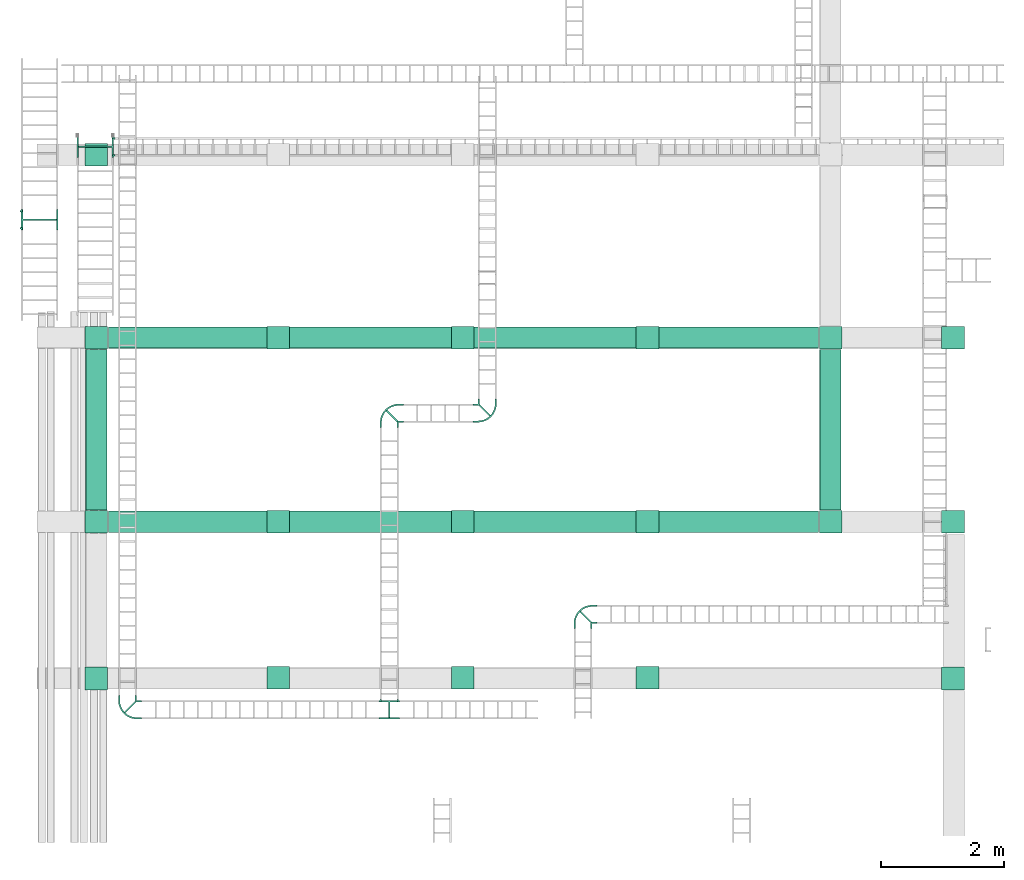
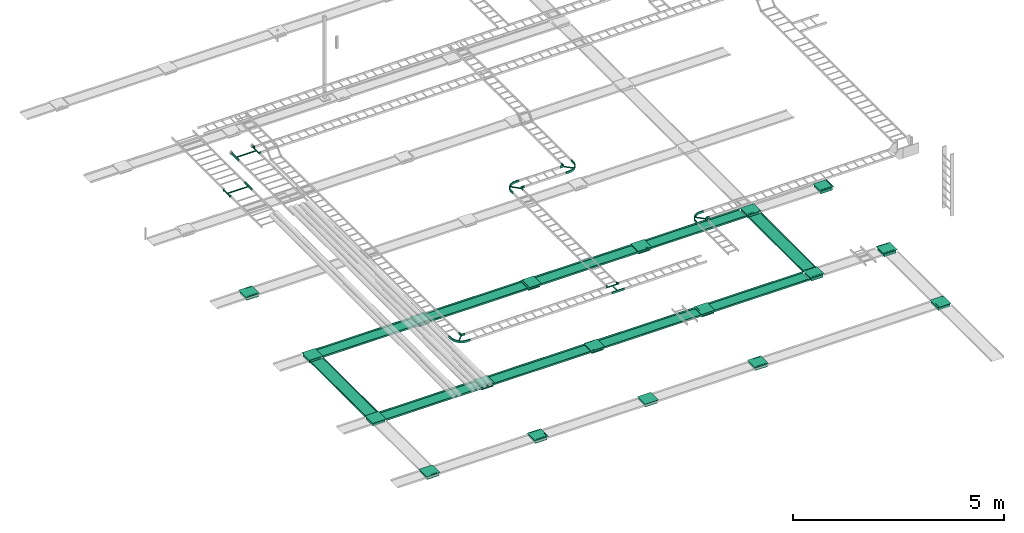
# One storey, part 1 of 16: 18 flow terminals, 7 flow fittings, 4 flow segments.
"""IFC2X3 building model written with IfcOpenShell, lengths in millimetres."""

from ifc_helpers import new_model, entity, si_unit, converted_unit, derived_unit, direction, frame, origin_with_axes, place, context, subcontext, project, spatial, open_shell, surface_model, source, transform, mapped, type_object, element, save


model = new_model("IFC2X3")

# Units and contexts
model_context = context("Model", 3, precision=0.01, world=frame((0.0, 4.29681676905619e-09, 0.0)), true_north=direction((4.01073788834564e-13, 1.0)))
plan_context = context("Plan", 3, precision=0.01, world=frame((0.0, 4.29681676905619e-09, 0.0)), true_north=direction((4.01073788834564e-13, 1.0)))
body_context = subcontext(model_context, "Body", "Model", "MODEL_VIEW")
ifc_project = project(units=[converted_unit("PLANEANGLEUNIT", "DEGREE", entity("IfcPositiveLengthMeasure", 0.0174532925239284), si_unit("PLANEANGLEUNIT", "RADIAN"), dimensions=[0, 0, 0, 0, 0, 0, 0]), si_unit("AREAUNIT", "SQUARE_METRE"), si_unit("LENGTHUNIT", "METRE", prefix="MILLI"), si_unit("MASSUNIT", "GRAM", prefix="KILO"), si_unit("POWERUNIT", "WATT"), si_unit("PRESSUREUNIT", "PASCAL"), si_unit("FORCEUNIT", "NEWTON", prefix="KILO"), si_unit("ELECTRICVOLTAGEUNIT", "VOLT"), si_unit("ELECTRICCURRENTUNIT", "AMPERE"), si_unit("THERMODYNAMICTEMPERATUREUNIT", "DEGREE_CELSIUS"), si_unit("TIMEUNIT", "SECOND"), si_unit("VOLUMEUNIT", "CUBIC_METRE"), derived_unit("LINEARVELOCITYUNIT", [(si_unit("LENGTHUNIT", "METRE"), 1), (si_unit("TIMEUNIT", "SECOND"), -1)]), derived_unit("VOLUMETRICFLOWRATEUNIT", [(si_unit("VOLUMEUNIT", "CUBIC_METRE"), 1), (si_unit("TIMEUNIT", "SECOND"), -1)]), derived_unit("THERMALTRANSMITTANCEUNIT", [(si_unit("POWERUNIT", "WATT"), 1), (si_unit("THERMODYNAMICTEMPERATUREUNIT", "KELVIN"), -1), (si_unit("AREAUNIT", "SQUARE_METRE"), -1)]), derived_unit("SOUNDPRESSUREUNIT", [(si_unit("PRESSUREUNIT", "PASCAL"), 1)])], contexts=[model_context, plan_context])

# Site, building, storey
site_placement = place(None, frame((0.0, -4.29681676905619e-09, 0.0), z_axis=(0.0, 0.0, 1.0), x_axis=(1.0, 0.0, 0.0)))
site = spatial("IfcSite", under=ifc_project, at=site_placement, Name="ENGM", CompositionType="ELEMENT")
building_placement = place(site_placement, frame((0.0, 4.29681676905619e-09, 0.0), z_axis=(0.0, 0.0, 1.0), x_axis=(1.0, 0.0, 0.0)))
building = spatial("IfcBuilding", under=site, at=building_placement, Name="TS", CompositionType="ELEMENT")
storey_placement = place(building_placement, frame((0.0, 0.0, 210900.0), z_axis=(0.0, 0.0, 1.0), x_axis=(1.0, 0.0, 0.0)))
storey = spatial("IfcBuildingStorey", under=building, at=storey_placement, Name="Nivå F", CompositionType="ELEMENT", Elevation=210900.0)

# Flow fittings
cable_carrier_fitting_type_1 = type_object("IfcCableCarrierFittingType", Name="10mm Radius", PredefinedType="TEE")
shared_shape_1 = source(origin_with_axes(), body_context, "Body", "SurfaceModel", [
    surface_model("IfcShellBasedSurfaceModel", [(12.7, -124.6, -4.6), (12.7, 124.6, -4.6), (-12.7, 124.6, -4.6), (-12.7, -124.6, -4.6), (-12.7, -124.6, -30.0), (-12.7, 124.6, -30.0), (12.7, 124.6, -30.0), (12.7, -124.6, -30.0), (-160.0, -124.6, 30.0), (-170.0, -124.6, 30.0), (-160.0, -150.0, 30.0), (-170.0, -150.0, 30.0), (-157.41181, -150.34074, 30.0), (-155.0, -151.33974, 30.0), (-142.3, -129.3427, 30.0), (-150.8378, -125.80623, 30.0), (-129.3427, -142.3, 30.0), (-134.96842, -134.96842, 30.0), (-152.92893, -152.92893, 30.0), (-151.33974, -155.0, 30.0), (-150.34074, -157.41181, 30.0), (-125.80623, -150.8378, 30.0), (-124.6, -160.0, 30.0), (-150.0, -160.0, 30.0), (-150.0, -170.0, 30.0), (-124.6, -170.0, 30.0), (155.0, -151.33974, 30.0), (157.41181, -150.34074, 30.0), (150.8378, -125.80623, 30.0), (142.3, -129.3427, 30.0), (134.96842, -134.96842, 30.0), (152.92893, -152.92893, 30.0), (170.0, -124.6, 30.0), (160.0, -124.6, 30.0), (160.0, -150.0, 30.0), (170.0, -150.0, 30.0), (129.3427, -142.3, 30.0), (150.34074, -157.41181, 30.0), (125.80623, -150.8378, 30.0), (124.6, -160.0, 30.0), (150.0, -160.0, 30.0), (124.6, -170.0, 30.0), (150.0, -170.0, 30.0), (151.33974, -155.0, 30.0), (170.0, 150.0, 30.0), (-170.0, 150.0, 30.0), (-170.0, 124.6, 30.0), (170.0, 124.6, 30.0), (-150.0, -170.0, -30.0), (-150.0, -160.0, -30.0), (-124.6, -170.0, -30.0), (-124.6, -160.0, -30.0), (-124.96526, -154.92777, -30.0), (-150.34074, -157.41181, -30.0), (-126.04179, -150.0, -30.0), (-151.33974, -155.0, -30.0), (150.0, -170.0, -30.0), (124.6, -170.0, -30.0), (150.0, -160.0, -30.0), (124.6, -160.0, -30.0), (124.96526, -154.92777, -30.0), (150.34074, -157.41181, -30.0), (126.04179, -150.0, -30.0), (151.33974, -155.0, -30.0), (-155.0, -151.33974, -30.0), (-157.41181, -150.34074, -30.0), (-170.0, -124.6, -30.0), (-152.92893, -152.92893, -30.0), (-170.0, -150.0, -30.0), (-160.0, -150.0, -30.0), (170.0, -124.6, -30.0), (155.0, -151.33974, -30.0), (152.92893, -152.92893, -30.0), (157.41181, -150.34074, -30.0), (160.0, -150.0, -30.0), (170.0, -150.0, -30.0), (170.0, 124.6, -30.0), (-170.0, 124.6, -30.0), (-170.0, 150.0, -30.0), (170.0, 150.0, -30.0), (-126.04179, -150.0, -4.6), (-129.69673, -141.70049, -4.6), (-135.34038, -134.60191, -4.6), (-142.60233, -129.17012, -4.6), (-151.00604, -125.76159, -4.6), (-160.0, -124.6, -4.6), (160.0, -124.6, -4.6), (-160.0, -150.0, -4.6), (160.0, -150.0, -4.6), (151.00604, -125.76159, -4.6), (142.60233, -129.17012, -4.6), (135.34038, -134.60191, -4.6), (129.69673, -141.70049, -4.6), (126.04179, -150.0, -4.6)], [open_shell([[[0, 1, 2]], [[2, 3, 0]], [[4, 5, 6]], [[6, 7, 4]], [[2, 1, 5]], [[6, 5, 1]], [[3, 2, 5]], [[5, 4, 3]], [[0, 3, 7]], [[4, 7, 3]], [[1, 0, 7]], [[7, 6, 1]], [[8, 9, 10]], [[11, 10, 9]], [[8, 10, 12]], [[13, 14, 15]], [[16, 17, 18]], [[14, 18, 17]], [[15, 12, 13]], [[15, 8, 12]], [[19, 16, 18]], [[19, 20, 21]], [[19, 21, 16]], [[21, 20, 22]], [[23, 24, 25]], [[23, 25, 22]], [[20, 23, 22]], [[18, 14, 13]], [[26, 27, 28]], [[26, 28, 29]], [[29, 30, 31]], [[32, 33, 34]], [[27, 34, 33]], [[34, 35, 32]], [[33, 28, 27]], [[30, 36, 31]], [[37, 38, 39]], [[40, 41, 42]], [[41, 40, 39]], [[37, 39, 40]], [[26, 29, 31]], [[37, 43, 38]], [[36, 43, 31]], [[36, 38, 43]], [[44, 45, 46]], [[46, 47, 44]], [[48, 49, 50]], [[50, 49, 51]], [[52, 53, 54]], [[51, 49, 52]], [[53, 55, 54]], [[52, 49, 53]], [[56, 57, 58]], [[58, 57, 59]], [[60, 61, 58]], [[62, 63, 61]], [[61, 60, 62]], [[60, 58, 59]], [[64, 65, 66]], [[67, 64, 54]], [[68, 66, 69]], [[66, 65, 69]], [[64, 66, 54]], [[66, 70, 54]], [[71, 72, 62]], [[73, 71, 70]], [[73, 70, 74]], [[70, 71, 62]], [[70, 75, 74]], [[62, 54, 70]], [[63, 62, 72]], [[55, 67, 54]], [[76, 77, 78]], [[78, 79, 76]], [[24, 23, 48]], [[49, 48, 23]], [[25, 24, 48]], [[48, 50, 25]], [[22, 25, 51]], [[50, 51, 25]], [[22, 51, 52]], [[54, 80, 52]], [[22, 52, 80]], [[22, 80, 21]], [[16, 81, 17]], [[16, 21, 80]], [[81, 16, 80]], [[82, 83, 14]], [[84, 85, 8]], [[83, 84, 15]], [[17, 82, 14]], [[14, 83, 15]], [[84, 8, 15]], [[82, 17, 81]], [[33, 32, 86]], [[9, 8, 85]], [[86, 70, 66]], [[70, 86, 32]], [[85, 66, 9]], [[66, 85, 86]], [[11, 9, 66]], [[66, 68, 11]], [[10, 11, 87]], [[87, 68, 69]], [[68, 87, 11]], [[12, 10, 87]], [[13, 12, 87]], [[65, 87, 69]], [[87, 65, 64]], [[67, 87, 64]], [[18, 13, 87]], [[19, 18, 67]], [[55, 20, 19]], [[20, 53, 23]], [[55, 19, 67]], [[20, 55, 53]], [[23, 53, 49]], [[87, 67, 18]], [[37, 40, 61]], [[43, 37, 63]], [[61, 40, 58]], [[37, 61, 63]], [[43, 63, 72]], [[72, 31, 43]], [[26, 31, 88]], [[88, 27, 26]], [[27, 88, 34]], [[88, 71, 73]], [[73, 74, 88]], [[71, 88, 72]], [[31, 72, 88]], [[35, 34, 88]], [[88, 74, 75]], [[88, 75, 35]], [[32, 35, 75]], [[75, 70, 32]], [[33, 86, 89]], [[28, 89, 90]], [[29, 90, 91]], [[33, 89, 28]], [[28, 90, 29]], [[91, 30, 29]], [[91, 92, 30]], [[93, 62, 60]], [[93, 60, 39]], [[39, 60, 59]], [[92, 36, 30]], [[92, 93, 36]], [[36, 93, 38]], [[93, 39, 38]], [[41, 39, 57]], [[59, 57, 39]], [[42, 41, 56]], [[57, 56, 41]], [[40, 42, 58]], [[56, 58, 42]], [[45, 44, 79]], [[79, 78, 45]], [[46, 45, 77]], [[78, 77, 45]], [[47, 46, 77]], [[77, 76, 47]], [[44, 47, 79]], [[76, 79, 47]], [[89, 86, 84]], [[90, 89, 84]], [[92, 91, 82]], [[93, 92, 81]], [[90, 83, 91]], [[84, 83, 90]], [[85, 84, 86]], [[81, 80, 93]], [[82, 81, 92]], [[83, 82, 91]], [[93, 80, 54]], [[54, 62, 93]]])]),
])
flow_fitting_placement = place(storey_placement, frame((526292.55901, 442941.94453, 3925.0), z_axis=(0.0, 0.0, 1.0), x_axis=(-1.0, 0.0, 0.0)))
element("IfcFlowFitting", 1, at=flow_fitting_placement, inside=storey, type_object=cable_carrier_fitting_type_1, Name="10mm Radius", context=body_context, shape_type="MappedRepresentation", body=[
    mapped(shared_shape_1, transform((0.0, 0.0, 0.0), scale=1.0)),
])
shared_shape_2 = source(origin_with_axes(), body_context, "Body", "SurfaceModel", [
    surface_model("IfcShellBasedSurfaceModel", [(12.7, -274.60001, -4.6), (12.7, 274.60001, -4.6), (-12.7, 274.60001, -4.6), (-12.7, -274.60001, -4.6), (-12.7, -274.60001, -30.0), (-12.7, 274.60001, -30.0), (12.7, 274.60001, -30.0), (12.7, -274.60001, -30.0), (-160.0, -274.60001, 30.0), (-170.0, -274.60001, 30.0), (-160.0, -300.0, 30.0), (-170.0, -300.0, 30.0), (-157.41181, -300.34073, 30.0), (-155.0, -301.33975, 30.0), (-142.3, -279.34271, 30.0), (-150.8378, -275.80622, 30.0), (-129.3427, -292.3, 30.0), (-134.96842, -284.96842, 30.0), (-152.92893, -302.92893, 30.0), (-151.33974, -304.99999, 30.0), (-150.34074, -307.4118, 30.0), (-125.80623, -300.83781, 30.0), (-124.6, -310.0, 30.0), (-150.0, -310.0, 30.0), (-150.0, -320.00002, 30.0), (-124.6, -320.00002, 30.0), (155.0, -301.33975, 30.0), (157.41181, -300.34073, 30.0), (150.8378, -275.80622, 30.0), (142.3, -279.34271, 30.0), (134.96842, -284.96842, 30.0), (170.0, -274.60001, 30.0), (160.0, -274.60001, 30.0), (160.0, -300.0, 30.0), (170.0, -300.0, 30.0), (129.3427, -292.3, 30.0), (152.92893, -302.92893, 30.0), (150.34074, -307.4118, 30.0), (125.80623, -300.83781, 30.0), (124.6, -310.0, 30.0), (150.0, -310.0, 30.0), (124.6, -320.00002, 30.0), (150.0, -320.00002, 30.0), (151.33974, -304.99999, 30.0), (170.0, 300.0, 30.0), (-170.0, 300.0, 30.0), (170.0, 274.60001, 30.0), (-170.0, 274.60001, 30.0), (-150.0, -320.00002, -30.0), (-150.0, -310.0, -30.0), (-124.6, -320.00002, -30.0), (-124.6, -310.0, -30.0), (-124.96526, -304.92779, -30.0), (-150.34074, -307.4118, -30.0), (-126.04179, -300.0, -30.0), (-151.33974, -304.99999, -30.0), (150.0, -320.00002, -30.0), (124.6, -320.00002, -30.0), (150.0, -310.0, -30.0), (124.6, -310.0, -30.0), (124.96526, -304.92779, -30.0), (150.34074, -307.4118, -30.0), (126.04179, -300.0, -30.0), (151.33974, -304.99999, -30.0), (-155.0, -301.33975, -30.0), (-157.41181, -300.34073, -30.0), (-170.0, -274.60001, -30.0), (-152.92893, -302.92893, -30.0), (-170.0, -300.0, -30.0), (-160.0, -300.0, -30.0), (155.0, -301.33975, -30.0), (152.92893, -302.92893, -30.0), (157.41181, -300.34073, -30.0), (170.0, -274.60001, -30.0), (160.0, -300.0, -30.0), (170.0, -300.0, -30.0), (170.0, 274.60001, -30.0), (-170.0, 274.60001, -30.0), (170.0, 300.0, -30.0), (-170.0, 300.0, -30.0), (-126.04179, -300.0, -4.6), (-129.69673, -291.70049, -4.6), (-135.34038, -284.60191, -4.6), (-142.60233, -279.17011, -4.6), (-151.00604, -275.76158, -4.6), (-160.0, -274.60001, -4.6), (160.0, -274.60001, -4.6), (-160.0, -300.0, -4.6), (160.0, -300.0, -4.6), (151.00604, -275.76158, -4.6), (142.60233, -279.17011, -4.6), (135.34038, -284.60191, -4.6), (129.69673, -291.70049, -4.6), (126.04179, -300.0, -4.6)], [open_shell([[[0, 1, 2]], [[2, 3, 0]], [[4, 5, 6]], [[6, 7, 4]], [[2, 1, 5]], [[6, 5, 1]], [[3, 2, 5]], [[5, 4, 3]], [[0, 3, 7]], [[4, 7, 3]], [[1, 0, 7]], [[7, 6, 1]], [[8, 9, 10]], [[11, 10, 9]], [[8, 10, 12]], [[13, 14, 15]], [[16, 17, 18]], [[14, 13, 17]], [[15, 12, 13]], [[15, 8, 12]], [[19, 16, 18]], [[19, 20, 21]], [[19, 21, 16]], [[21, 20, 22]], [[23, 24, 25]], [[23, 25, 22]], [[20, 23, 22]], [[18, 17, 13]], [[26, 27, 28]], [[29, 26, 28]], [[30, 26, 29]], [[31, 32, 33]], [[27, 33, 32]], [[33, 34, 31]], [[32, 28, 27]], [[30, 35, 36]], [[37, 38, 39]], [[40, 41, 42]], [[41, 40, 39]], [[37, 39, 40]], [[26, 30, 36]], [[37, 43, 38]], [[35, 43, 36]], [[35, 38, 43]], [[44, 45, 46]], [[47, 46, 45]], [[48, 49, 50]], [[50, 49, 51]], [[52, 53, 54]], [[51, 49, 52]], [[53, 55, 54]], [[52, 49, 53]], [[56, 57, 58]], [[58, 57, 59]], [[60, 61, 58]], [[62, 63, 61]], [[61, 60, 62]], [[60, 58, 59]], [[64, 65, 66]], [[67, 64, 54]], [[68, 66, 69]], [[65, 69, 66]], [[64, 66, 54]], [[66, 62, 54]], [[70, 71, 62]], [[72, 70, 73]], [[72, 73, 74]], [[73, 75, 74]], [[62, 66, 73]], [[70, 62, 73]], [[63, 62, 71]], [[55, 67, 54]], [[76, 77, 78]], [[79, 78, 77]], [[24, 23, 49]], [[49, 48, 24]], [[25, 24, 48]], [[48, 50, 25]], [[22, 25, 51]], [[50, 51, 25]], [[22, 51, 52]], [[54, 80, 52]], [[22, 52, 80]], [[22, 80, 21]], [[16, 81, 17]], [[16, 21, 80]], [[81, 16, 80]], [[82, 83, 14]], [[84, 85, 8]], [[83, 84, 15]], [[17, 82, 14]], [[14, 83, 15]], [[84, 8, 15]], [[82, 17, 81]], [[32, 31, 86]], [[9, 8, 85]], [[86, 73, 66]], [[73, 86, 31]], [[85, 66, 9]], [[66, 85, 86]], [[11, 9, 68]], [[66, 68, 9]], [[10, 11, 87]], [[87, 68, 69]], [[68, 87, 11]], [[12, 10, 87]], [[13, 12, 87]], [[65, 87, 69]], [[87, 65, 64]], [[67, 87, 64]], [[18, 13, 87]], [[19, 18, 67]], [[55, 20, 19]], [[20, 53, 23]], [[55, 19, 67]], [[20, 55, 53]], [[23, 53, 49]], [[87, 67, 18]], [[37, 40, 61]], [[43, 37, 63]], [[61, 40, 58]], [[37, 61, 63]], [[43, 63, 71]], [[71, 36, 43]], [[26, 36, 88]], [[88, 27, 26]], [[27, 88, 33]], [[88, 70, 72]], [[72, 74, 88]], [[70, 88, 71]], [[36, 71, 88]], [[34, 33, 88]], [[88, 74, 75]], [[88, 75, 34]], [[31, 34, 73]], [[75, 73, 34]], [[32, 86, 89]], [[28, 89, 90]], [[29, 90, 91]], [[32, 89, 28]], [[28, 90, 29]], [[91, 30, 29]], [[91, 92, 30]], [[93, 62, 60]], [[93, 60, 39]], [[39, 60, 59]], [[92, 35, 30]], [[92, 93, 35]], [[35, 93, 38]], [[93, 39, 38]], [[41, 39, 59]], [[59, 57, 41]], [[42, 41, 56]], [[57, 56, 41]], [[40, 42, 56]], [[56, 58, 40]], [[45, 44, 78]], [[78, 79, 45]], [[47, 45, 79]], [[79, 77, 47]], [[46, 47, 77]], [[77, 76, 46]], [[44, 46, 76]], [[76, 78, 44]], [[89, 86, 84]], [[90, 89, 84]], [[92, 91, 82]], [[93, 92, 81]], [[90, 83, 91]], [[84, 83, 90]], [[85, 84, 86]], [[81, 80, 93]], [[82, 81, 92]], [[83, 82, 91]], [[93, 80, 62]], [[54, 62, 80]]])]),
])
for number, where, z_axis, x_axis, name in (
    (2, (521496.73076, 452124.42016, 3925.0), (0.0, 0.0, 1.0), (0.0, 1.0, 0.0), "10mm Radius"),
    (3, (520589.0125, 450936.9625, 3925.0), (0.0, 0.0, 1.0), (0.0, -1.0, 0.0), "10mm Radius"),
):
    element("IfcFlowFitting", number, at=place(storey_placement, frame(where, z_axis=z_axis, x_axis=x_axis)), inside=storey, type_object=cable_carrier_fitting_type_1, Name=name, context=body_context, shape_type="MappedRepresentation", body=[
        mapped(shared_shape_2, transform((0.0, 0.0, 0.0), scale=1.0)),
    ])
cable_carrier_fitting_type_2 = type_object("IfcCableCarrierFittingType", Name="Standard", PredefinedType="BEND")
shared_shape_3 = source(origin_with_axes(), body_context, "Body", "SurfaceModel", [
    surface_model("IfcShellBasedSurfaceModel", [(-123.35213, 141.31264, -4.6), (-123.35213, 141.31264, -30.0), (-141.31264, 123.35213, -30.0), (-141.31264, 123.35213, -4.6), (34.89837, -52.85888, -30.0), (52.85888, -34.89837, -30.0), (34.89837, -52.85888, -4.6), (52.85888, -34.89837, -4.6), (-231.0, -150.0, 30.0), (-231.0, -124.6, -30.0), (-231.0, -150.0, -30.0), (-231.0, -124.6, 30.0), (-231.0, 150.0, 30.0), (-231.0, 150.0, -30.0), (-231.0, 124.6, -30.0), (-231.0, 124.6, 30.0), (-151.0, -124.6, 30.0), (-151.0, -124.6, -30.0), (-35.81229, -127.08774, -30.0), (-97.23311, -119.30443, -30.0), (-45.53245, -103.6212, -30.0), (16.22664, -99.27236, -30.0), (2.11516, -78.15302, -30.0), (61.83914, -61.83914, -30.0), (43.87863, -43.87863, -30.0), (-151.0, -150.0, -30.0), (-92.27782, -144.21637, -30.0), (144.21637, 92.27782, -30.0), (119.30443, 97.23311, -30.0), (124.6, 151.0, -30.0), (124.6, 231.0, -30.0), (150.0, 231.0, -30.0), (150.0, 151.0, -30.0), (78.15302, -2.11516, -30.0), (99.27236, -16.22664, -30.0), (103.6212, 45.53245, -30.0), (127.08774, 35.81229, -30.0), (-151.0, -150.0, 30.0), (-92.27782, -144.21637, 30.0), (-97.23311, -119.30443, 30.0), (-35.81229, -127.08774, 30.0), (-45.53245, -103.6212, 30.0), (43.87863, -43.87863, 30.0), (2.11516, -78.15302, 30.0), (61.83914, -61.83914, 30.0), (16.22664, -99.27236, 30.0), (78.15302, -2.11516, 30.0), (99.27236, -16.22664, 30.0), (127.08774, 35.81229, 30.0), (103.6212, 45.53245, 30.0), (119.30443, 97.23311, 30.0), (124.6, 151.0, 30.0), (144.21637, 92.27782, 30.0), (124.6, 231.0, 30.0), (150.0, 151.0, 30.0), (150.0, 231.0, 30.0), (-151.0, 150.0, -30.0), (-151.0, 150.0, 30.0), (-151.0, 124.6, -30.0), (-137.8, 128.13693, -30.0), (-150.2929, 150.2929, -30.0), (-124.6, 151.0, -30.0), (-150.0, 151.0, -30.0), (-150.0, 231.0, -30.0), (-124.6, 231.0, -30.0), (-128.13693, 137.8, -30.0), (-151.0, 124.6, 30.0), (-137.8, 128.13693, 30.0), (-150.2929, 150.2929, 30.0), (-128.13693, 137.8, 30.0), (-150.0, 151.0, 30.0), (-124.6, 151.0, 30.0), (-150.0, 231.0, 30.0), (-124.6, 231.0, 30.0), (-144.4, 126.36847, 30.0), (-144.42174, 126.36264, -30.0), (-132.96846, 132.96846, 30.0), (-126.36264, 144.42174, 30.0), (-132.96846, 132.96846, -30.0), (-126.36847, 144.4, -30.0)], [open_shell([[[0, 1, 2]], [[2, 3, 0]], [[4, 5, 6]], [[7, 6, 5]], [[1, 0, 7]], [[7, 5, 1]], [[2, 1, 5]], [[5, 4, 2]], [[3, 2, 4]], [[4, 6, 3]], [[0, 3, 7]], [[6, 7, 3]], [[8, 9, 10]], [[9, 8, 11]], [[12, 13, 14]], [[14, 15, 12]], [[9, 11, 16]], [[16, 17, 9]], [[18, 19, 20]], [[21, 22, 23]], [[23, 22, 24]], [[22, 21, 20]], [[18, 20, 21]], [[10, 9, 25]], [[25, 9, 17]], [[19, 26, 17]], [[26, 19, 18]], [[17, 26, 25]], [[27, 28, 29]], [[30, 31, 32]], [[30, 32, 29]], [[27, 29, 32]], [[23, 33, 34]], [[23, 24, 33]], [[34, 33, 35]], [[28, 36, 35]], [[36, 28, 27]], [[35, 36, 34]], [[8, 10, 25]], [[25, 37, 8]], [[11, 8, 37]], [[16, 37, 38]], [[37, 16, 11]], [[39, 38, 40]], [[39, 16, 38]], [[39, 40, 41]], [[42, 43, 44]], [[45, 43, 41]], [[44, 43, 45]], [[40, 45, 41]], [[46, 44, 47]], [[47, 48, 49]], [[49, 48, 50]], [[47, 49, 46]], [[51, 50, 52]], [[53, 51, 54]], [[54, 55, 53]], [[54, 51, 52]], [[50, 48, 52]], [[46, 42, 44]], [[13, 12, 56]], [[57, 56, 12]], [[58, 56, 59]], [[14, 13, 58]], [[58, 13, 56]], [[56, 60, 59]], [[61, 62, 63]], [[61, 63, 64]], [[65, 59, 60]], [[65, 62, 61]], [[65, 60, 62]], [[15, 14, 66]], [[58, 66, 14]], [[15, 66, 12]], [[57, 12, 66]], [[67, 68, 57]], [[57, 66, 67]], [[68, 69, 70]], [[70, 69, 71]], [[71, 72, 70]], [[72, 71, 73]], [[69, 68, 67]], [[19, 17, 39]], [[41, 20, 19]], [[20, 43, 22]], [[39, 17, 16]], [[41, 43, 20]], [[19, 39, 41]], [[24, 43, 42]], [[24, 22, 43]], [[35, 33, 46]], [[28, 35, 49]], [[29, 28, 50]], [[42, 46, 24]], [[46, 33, 24]], [[35, 46, 49]], [[49, 50, 28]], [[50, 51, 29]], [[38, 25, 26]], [[26, 18, 40]], [[21, 45, 18]], [[37, 25, 38]], [[26, 40, 38]], [[18, 45, 40]], [[23, 44, 45]], [[45, 21, 23]], [[47, 34, 36]], [[48, 36, 27]], [[52, 27, 32]], [[23, 47, 44]], [[23, 34, 47]], [[48, 47, 36]], [[27, 52, 48]], [[32, 54, 52]], [[56, 57, 68]], [[60, 56, 68]], [[70, 62, 68]], [[60, 68, 62]], [[74, 59, 67]], [[59, 74, 75]], [[66, 58, 75]], [[75, 74, 66]], [[65, 69, 76]], [[61, 71, 77]], [[59, 78, 67]], [[67, 78, 76]], [[61, 77, 79]], [[65, 79, 69]], [[78, 65, 76]], [[69, 79, 77]], [[31, 30, 55]], [[53, 55, 30]], [[64, 63, 72]], [[72, 73, 64]], [[29, 51, 30]], [[53, 30, 51]], [[54, 32, 31]], [[31, 55, 54]], [[62, 70, 63]], [[72, 63, 70]], [[71, 61, 64]], [[64, 73, 71]]])]),
])
for number, where, z_axis, x_axis, name in (
    (4, (522022.55901, 442941.94453, 3925.0), (0.0, 0.0, 1.0), (0.0, -1.0, 0.0), "Standard"),
    (5, (527892.55901, 447781.29565, 3925.0), (0.0, 0.0, 1.0), (1.0, 0.0, 0.0), "Standard"),
    (6, (526292.55901, 447781.29565, 3925.0), (0.0, 0.0, 1.0), (-1.0, 0.0, 0.0), "Standard"),
    (7, (529452.55901, 444501.94453, 3925.0), (0.0, 0.0, 1.0), (-1.0, 0.0, 0.0), "Standard"),
):
    element("IfcFlowFitting", number, at=place(storey_placement, frame(where, z_axis=z_axis, x_axis=x_axis)), inside=storey, type_object=cable_carrier_fitting_type_2, Name=name, context=body_context, shape_type="MappedRepresentation", body=[
        mapped(shared_shape_3, transform((0.0, 0.0, 0.0), scale=1.0)),
    ])

# Flow segments
cable_carrier_segment_type = type_object("IfcCableCarrierSegmentType", Name="Kabelbane", PredefinedType="CABLETRAYSEGMENT")
shared_shape_4 = source(origin_with_axes(), body_context, "Body", "SurfaceModel", [
    surface_model("IfcShellBasedSurfaceModel", [(0.0, -175.0, 25.0), (0.0, -172.46, -22.46), (0.0, -175.0, -25.0), (0.0, 175.0, -25.0), (0.0, -172.46, 25.0), (0.0, 175.0, 25.0), (0.0, 172.46, -22.46), (0.0, 172.46, 25.0), (2614.56192, -172.46, 25.0), (2614.56192, -175.0, 25.0), (2614.56192, -172.46, -22.46), (2614.56192, 175.0, 25.0), (2614.56192, 172.46, 25.0), (2614.56192, 172.46, -22.46), (2614.56192, -175.0, -25.0), (2614.56192, 175.0, -25.0)], [open_shell([[[0, 1, 2]], [[3, 2, 1]], [[1, 0, 4]], [[5, 3, 6]], [[1, 6, 3]], [[6, 7, 5]], [[8, 9, 10]], [[11, 12, 13]], [[10, 14, 15]], [[14, 10, 9]], [[13, 15, 11]], [[15, 13, 10]], [[0, 2, 14]], [[14, 9, 0]], [[4, 0, 9]], [[9, 8, 4]], [[1, 4, 8]], [[8, 10, 1]], [[6, 1, 10]], [[10, 13, 6]], [[7, 6, 13]], [[13, 12, 7]], [[5, 7, 12]], [[12, 11, 5]], [[3, 5, 11]], [[11, 15, 3]], [[2, 3, 14]], [[15, 14, 3]]])]),
])
for number, where, z_axis, x_axis in (
    (8, (533489.50798, 448819.16475, -35.0), (0.0, 0.0, 1.0), (0.0, -1.0, 0.0)),
    (9, (521514.77746, 448819.16475, -35.0), (0.0, 0.0, 1.0), (0.0, -1.0, 0.0)),
):
    element("IfcFlowSegment", number, at=place(storey_placement, frame(where, z_axis=z_axis, x_axis=x_axis)), inside=storey, type_object=cable_carrier_segment_type, Name="Kabelbane", context=body_context, shape_type="MappedRepresentation", body=[
        mapped(shared_shape_4, transform((0.0, 0.0, 0.0), scale=1.0)),
    ])
shared_shape_5 = source(origin_with_axes(), body_context, "Body", "SurfaceModel", [
    surface_model("IfcShellBasedSurfaceModel", [(0.0, -175.0, 25.0), (0.0, -172.46, -22.46), (0.0, -175.0, -25.0), (0.0, 175.0, -25.0), (0.0, -172.46, 25.0), (0.0, 175.0, 25.0), (0.0, 172.46, -22.46), (0.0, 172.46, 25.0), (11584.73009, -175.0, -25.0), (11584.73009, -172.46, -22.46), (11584.73009, -175.0, 25.0), (11584.73009, 175.0, -25.0), (11584.73009, -172.46, 25.0), (11584.73009, 172.46, -22.46), (11584.73009, 175.0, 25.0), (11584.73009, 172.46, 25.0)], [open_shell([[[0, 1, 2]], [[3, 2, 1]], [[1, 0, 4]], [[5, 3, 6]], [[1, 6, 3]], [[6, 7, 5]], [[8, 9, 10]], [[9, 8, 11]], [[12, 10, 9]], [[13, 11, 14]], [[11, 13, 9]], [[14, 15, 13]], [[0, 2, 8]], [[8, 10, 0]], [[4, 0, 10]], [[10, 12, 4]], [[1, 4, 12]], [[12, 9, 1]], [[6, 1, 13]], [[9, 13, 1]], [[7, 6, 13]], [[13, 15, 7]], [[5, 7, 15]], [[15, 14, 5]], [[3, 5, 14]], [[14, 11, 3]], [[2, 3, 11]], [[11, 8, 2]]])]),
])
for number, where, z_axis, x_axis in (
    (10, (521709.77746, 449014.16475, -35.0), (0.0, 0.0, 1.0), (1.0, 0.0, 0.0)),
    (11, (521709.77746, 446009.60271, -35.0), (0.0, 0.0, 1.0), (1.0, 0.0, 0.0)),
):
    element("IfcFlowSegment", number, at=place(storey_placement, frame(where, z_axis=z_axis, x_axis=x_axis)), inside=storey, type_object=cable_carrier_segment_type, Name="Kabelbane", context=body_context, shape_type="MappedRepresentation", body=[
        mapped(shared_shape_5, transform((0.0, 0.0, 0.0), scale=1.0)),
    ])

# Flow terminals
electric_appliance_type = type_object("IfcElectricApplianceType", Name="Gulvboks UZD370x370 H=100mm", PredefinedType="NOTDEFINED")
shared_shape_6 = source(origin_with_axes(), body_context, "Body", "SurfaceModel", [
    surface_model("IfcShellBasedSurfaceModel", [(141.49976, -141.4961, -1.48406), (141.49976, 141.50391, -1.48406), (-141.50025, -141.4961, -1.48406), (-141.50025, 141.50391, -1.48406), (-141.50025, -141.4961, -4.48406), (-141.50025, 141.50391, -4.48406), (141.49976, -141.4961, -4.48406), (141.49976, 141.50391, -4.48406), (184.99917, 184.99837, -1.48406), (155.84051, 145.91442, -1.48406), (162.49918, 142.75301, -1.48406), (149.99169, 150.40039, -1.48406), (145.21219, 156.0119, -1.48406), (141.71406, 162.5, -1.48406), (-185.00083, 184.99837, -1.48406), (162.49918, -141.17372, -1.48406), (184.99917, -185.00163, -1.48406), (155.48123, -144.5578, -1.48406), (149.38592, -149.41071, -1.48406), (144.51534, -155.49191, -1.48406), (141.11091, -162.5, -1.48406), (-148.97624, 154.87114, -1.48406), (-155.04888, 148.55289, -1.48406), (-144.66368, 162.5, -1.48406), (-162.50082, -142.36211, -1.48406), (-162.50082, 143.94139, -1.48406), (-185.00083, -185.00163, -1.48406), (-144.06053, -162.5, -1.48406), (-147.04786, -156.16856, -1.48406), (-151.23564, -150.55841, -1.48406), (-156.45626, -145.89404, -1.48406), (-185.00083, -185.00163, -4.48406), (-185.00083, 184.99837, -4.48406), (184.99917, -185.00163, -4.48406), (184.99917, 184.99837, -4.48406), (-156.45626, -145.89404, -3.48406), (-155.04888, 148.55289, -3.48406), (-162.50082, 143.94139, -3.48406), (149.99169, 150.40039, -3.48406), (-148.97624, 154.87114, -3.48406), (-151.23564, -150.55841, -3.48406), (-162.50082, -142.36211, -3.48406), (-147.04786, -156.16856, -3.48406), (144.51534, -155.49191, -3.48406), (-144.06053, -162.5, -3.48406), (141.11091, -162.5, -3.48406), (-144.66368, 162.5, -3.48406), (145.21219, 156.0119, -3.48406), (162.49918, -141.17372, -3.48406), (162.49918, 142.75301, -3.48406), (155.84051, 145.91442, -3.48406), (155.48123, -144.5578, -3.48406), (149.38592, -149.41071, -3.48406), (141.71406, 162.5, -3.48406), (162.49918, -162.5, -4.48406), (162.49918, 162.5, -4.48406), (-162.50082, 162.5, -4.48406), (-162.50082, -162.5, -4.48406), (-162.50082, -162.5, -101.48406), (-162.50082, 162.5, -101.48406), (162.49918, 162.5, -101.48406), (162.49918, -162.5, -101.48406)], [open_shell([[[0, 1, 2]], [[3, 2, 1]], [[4, 5, 6]], [[7, 6, 5]], [[3, 1, 5]], [[7, 5, 1]], [[2, 3, 4]], [[5, 4, 3]], [[0, 2, 6]], [[4, 6, 2]], [[1, 0, 7]], [[6, 7, 0]], [[8, 9, 10]], [[9, 8, 11]], [[8, 12, 11]], [[12, 8, 13]], [[8, 14, 13]], [[8, 15, 16]], [[15, 8, 10]], [[16, 15, 17]], [[18, 19, 16]], [[18, 16, 17]], [[16, 19, 20]], [[21, 14, 22]], [[14, 21, 23]], [[24, 25, 14]], [[14, 25, 22]], [[24, 14, 26]], [[23, 13, 14]], [[27, 28, 26]], [[20, 27, 26]], [[29, 30, 26]], [[26, 30, 24]], [[29, 26, 28]], [[20, 26, 16]], [[31, 32, 33]], [[34, 33, 32]], [[14, 8, 34]], [[34, 32, 14]], [[26, 14, 32]], [[32, 31, 26]], [[16, 26, 31]], [[31, 33, 16]], [[8, 16, 33]], [[33, 34, 8]], [[35, 36, 37]], [[36, 38, 39]], [[38, 36, 40]], [[37, 41, 35]], [[40, 42, 43]], [[42, 44, 45]], [[40, 36, 35]], [[46, 39, 47]], [[38, 47, 39]], [[48, 49, 50]], [[51, 50, 38]], [[40, 52, 38]], [[43, 42, 45]], [[38, 52, 51]], [[50, 51, 48]], [[43, 52, 40]], [[47, 53, 46]], [[53, 13, 23]], [[23, 46, 53]], [[37, 25, 24]], [[24, 41, 37]], [[44, 27, 20]], [[20, 45, 44]], [[48, 15, 10]], [[10, 49, 48]], [[23, 21, 46]], [[39, 46, 21]], [[21, 22, 39]], [[22, 25, 36]], [[37, 36, 25]], [[22, 36, 39]], [[24, 30, 41]], [[30, 35, 41]], [[35, 30, 29]], [[35, 29, 40]], [[28, 27, 42]], [[28, 42, 40]], [[42, 27, 44]], [[28, 40, 29]], [[20, 19, 45]], [[19, 43, 45]], [[43, 19, 18]], [[43, 18, 52]], [[17, 15, 51]], [[17, 51, 52]], [[51, 15, 48]], [[17, 52, 18]], [[10, 9, 49]], [[9, 50, 49]], [[50, 9, 11]], [[50, 11, 38]], [[12, 13, 47]], [[12, 47, 38]], [[47, 13, 53]], [[12, 38, 11]], [[54, 55, 56]], [[56, 57, 54]], [[58, 59, 60]], [[60, 61, 58]], [[56, 55, 60]], [[60, 59, 56]], [[57, 56, 59]], [[59, 58, 57]], [[54, 57, 58]], [[58, 61, 54]], [[55, 54, 61]], [[61, 60, 55]]])]),
])
for number, where, z_axis, x_axis in (
    (12, (521510.36735, 443454.31837, 0.0), (0.0, 0.0, 1.0), (1.0, 0.0, 0.0)),
    (13, (521510.36735, 446009.49131, 0.0), (0.0, 0.0, 1.0), (1.0, 0.0, 0.0)),
    (14, (524480.12876, 443467.41952, 0.0), (0.0, 0.0, 1.0), (1.0, 0.0, 0.0)),
    (15, (527492.25733, 443467.41952, 0.0), (0.0, 0.0, 1.0), (1.0, 0.0, 0.0)),
    (16, (530504.40397, 443467.41952, 0.0), (0.0, 0.0, 1.0), (1.0, 0.0, 0.0)),
    (17, (524480.12876, 446009.49131, 0.0), (0.0, 0.0, 1.0), (1.0, 0.0, 0.0)),
    (18, (527492.25733, 446009.49131, 0.0), (0.0, 0.0, 1.0), (1.0, 0.0, 0.0)),
    (19, (530504.40397, 446009.49131, 0.0), (0.0, 0.0, 1.0), (1.0, 0.0, 0.0)),
    (20, (533494.4755, 446009.49131, 0.0), (0.0, 0.0, 1.0), (1.0, 0.0, 0.0)),
    (21, (535488.32149, 446009.49131, 0.0), (0.0, 0.0, 1.0), (1.0, 0.0, 0.0)),
    (22, (535488.32149, 443454.31837, 0.0), (0.0, 0.0, 1.0), (1.0, 0.0, 0.0)),
    (23, (535488.32149, 449014.05335, 0.0), (0.0, 0.0, 1.0), (1.0, 0.0, 0.0)),
    (24, (533494.4755, 449014.05335, 0.0), (0.0, 0.0, 1.0), (1.0, 0.0, 0.0)),
    (25, (530504.40397, 449014.05335, 0.0), (0.0, 0.0, 1.0), (1.0, 0.0, 0.0)),
    (26, (527492.25733, 449014.05335, 0.0), (0.0, 0.0, 1.0), (1.0, 0.0, 0.0)),
    (27, (521510.36735, 449014.05335, 0.0), (0.0, 0.0, 1.0), (1.0, 0.0, 0.0)),
    (28, (524480.12876, 449014.05335, 0.0), (0.0, 0.0, 1.0), (1.0, 0.0, 0.0)),
    (29, (521510.36735, 451998.78205, 0.0), (0.0, 0.0, 1.0), (1.0, 0.0, 0.0)),
):
    element("IfcFlowTerminal", number, at=place(storey_placement, frame(where, z_axis=z_axis, x_axis=x_axis)), inside=storey, type_object=electric_appliance_type, Name="Gulvboks UZD370x370 H=100mm", context=body_context, shape_type="MappedRepresentation", body=[
        mapped(shared_shape_6, transform((0.0, 0.0, 0.0), scale=1.0)),
    ])

save(model, "model.ifc")
